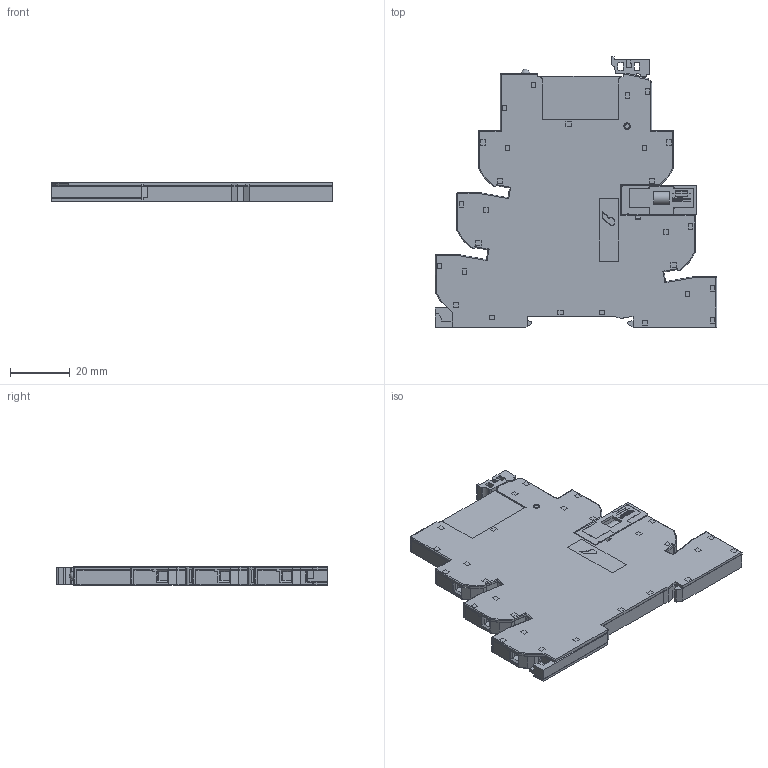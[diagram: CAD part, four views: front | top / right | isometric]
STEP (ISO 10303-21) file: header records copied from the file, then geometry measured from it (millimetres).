
FILE_DESCRIPTION(('STEP AP214'),'2;1');
FILE_NAME('3940=3481+9364+09363.stp','2010-10-02T09:57:15',(''),(''),'2007.1.106','THINKDESIGN','');
FILE_SCHEMA(('AUTOMOTIVE_DESIGN'));
Products named in the file (1): None
Bounding box: 94.25 x 90.7 x 6.2 mm (x, y, z)
Surface area: 29196.3 mm2 (no closed solid volume)
Topology: 0 solids, 0 shells, 1389 faces, 9429 edges, 9409 vertices
Faces by surface type: plane 1091, cylinder 213, bspline 85
Full cylindrical faces by diameter (mm): 2 x2, 2.2 x2, 3 x1, 3.9 x6, 4.4 x1
Entity records: 94319 total; most frequent: CARTESIAN_POINT 29268, DIRECTION 11507, COMPOSITE_CURVE_SEGMENT 9413, TRIMMED_CURVE 8534, VECTOR 8173, LINE 8173, AXIS2_PLACEMENT_3D 1667, OUTER_BOUNDARY_CURVE 1389
